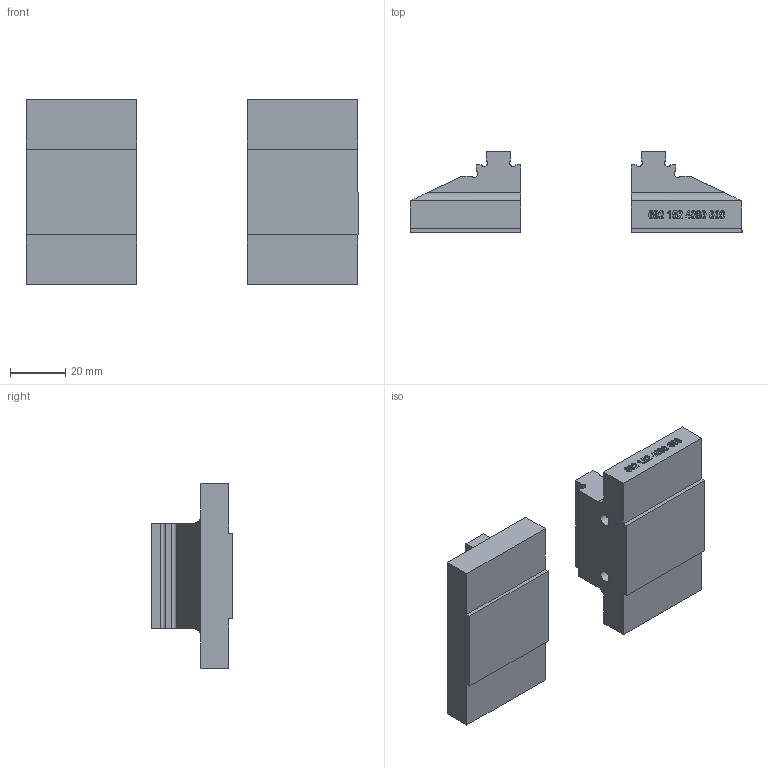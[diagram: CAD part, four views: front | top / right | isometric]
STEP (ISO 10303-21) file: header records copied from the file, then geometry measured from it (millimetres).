
FILE_DESCRIPTION (( 'STEP AP214' ), '1' );
FILE_NAME ('3D-6921524070031.STEP', '2023-12-04T09:52:03', ( '' ), ( '' ), 'SwSTEP 2.0', 'SolidWorks 2021', '' );
FILE_SCHEMA (( 'AUTOMOTIVE_DESIGN' ));
Length unit declared in the file: millimetre
Products named in the file (3): 3D-6921524070000; 3D-6921524070031; 3D-6921524080000
Assembly tree (2 placements, depth 2):
  3D-6921524070031
    3D-6921524070000
    3D-6921524080000
Bounding box: 120 x 29.5 x 67 mm (x, y, z)
Volume: 85646 mm3; surface area: 19899.6 mm2
Topology: 2 solids, 2 shells, 406 faces, 1054 edges, 698 vertices
Faces by surface type: bspline 203, plane 185, cylinder 14, cone 4
Full cylindrical faces by diameter (mm): 4.2 x4
Entity records: 24190 total; most frequent: CARTESIAN_POINT 15498, ORIENTED_EDGE 2084, DIRECTION 1072, EDGE_CURVE 1042, VERTEX_POINT 694, LINE 608, VECTOR 608, EDGE_LOOP 460
